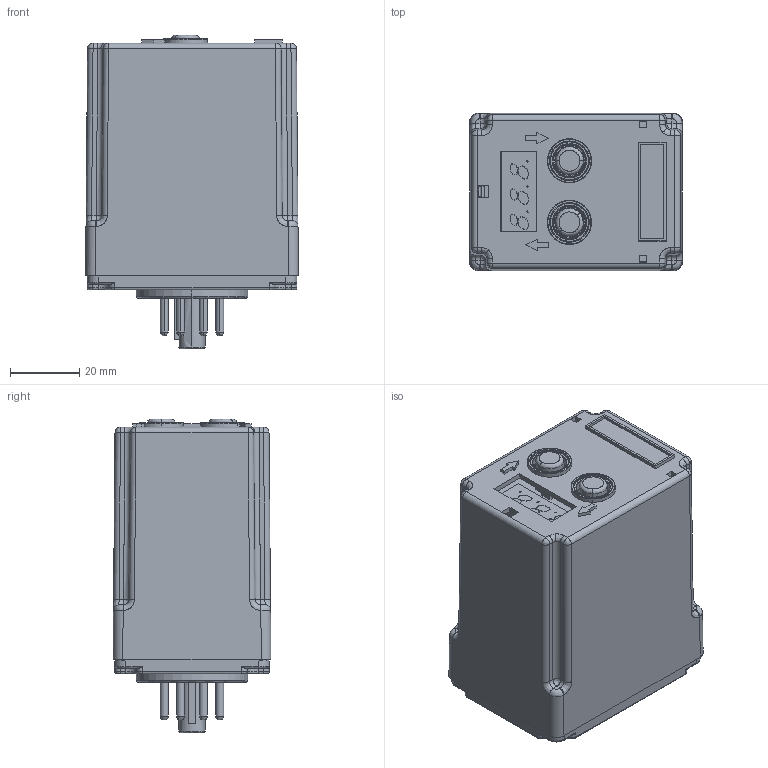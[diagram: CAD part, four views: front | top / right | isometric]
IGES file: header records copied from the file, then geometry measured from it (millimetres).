
Start section: SolidWorks IGES file using analytic representation for surfaces
Global section: file name: C:\Users\freiberg\Desktop\EZ-T1K-46X.IGS; native system: SolidWorks 2016; preprocessor: SolidWorks 2016; author: freiberg; date: 160628.074919; units: inch
Bounding box: 61.26 x 45.47 x 90.25 mm (x, y, z)
Surface area: 53586.7 mm2 (no closed solid volume)
Topology: 0 solids, 0 shells, 1260 faces, 11716 edges, 11670 vertices
Faces by surface type: bspline 779, revolution 481
